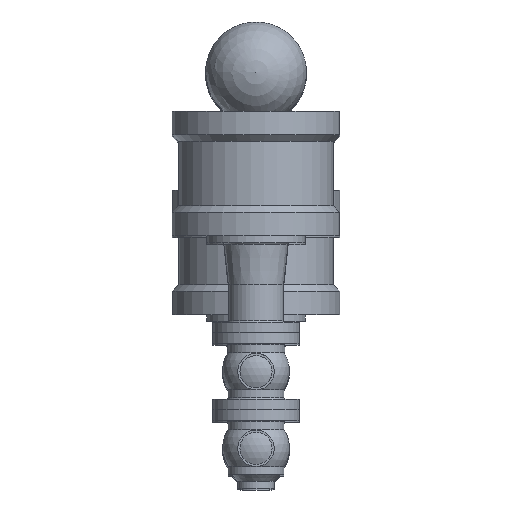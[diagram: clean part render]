
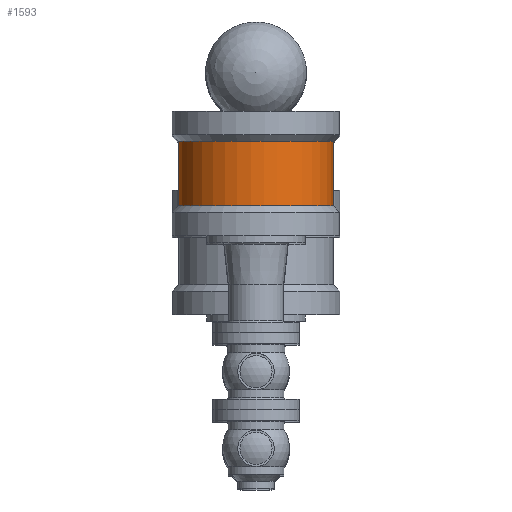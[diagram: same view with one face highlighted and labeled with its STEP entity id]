
A CAD part, front view. The second image highlights one B-rep face of the part: STEP entity #1593.
In plain terms, the highlighted cylindrical face has radius 110.5 mm (diameter 221 mm), a full revolution.
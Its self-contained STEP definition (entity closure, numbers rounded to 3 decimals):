
#219=LINE('',#2860,#262);
#262=VECTOR('',#2236,110.5);
#303=CYLINDRICAL_SURFACE('',#1872,110.5);
#351=FACE_OUTER_BOUND('',#451,.T.);
#451=EDGE_LOOP('',(#1183,#1184,#1185,#1186,#1187,#1188));
#587=CIRCLE('',#1870,110.5);
#588=CIRCLE('',#1871,110.5);
#589=CIRCLE('',#1873,110.5);
#590=CIRCLE('',#1874,110.5);
#753=VERTEX_POINT('',#2850);
#754=VERTEX_POINT('',#2851);
#755=VERTEX_POINT('',#2856);
#756=VERTEX_POINT('',#2857);
#924=EDGE_CURVE('',#753,#754,#587,.T.);
#925=EDGE_CURVE('',#754,#753,#588,.T.);
#927=EDGE_CURVE('',#755,#756,#589,.T.);
#928=EDGE_CURVE('',#756,#755,#590,.T.);
#929=EDGE_CURVE('',#756,#754,#219,.T.);
#1183=ORIENTED_EDGE('',*,*,#927,.F.);
#1184=ORIENTED_EDGE('',*,*,#928,.F.);
#1185=ORIENTED_EDGE('',*,*,#929,.T.);
#1186=ORIENTED_EDGE('',*,*,#925,.T.);
#1187=ORIENTED_EDGE('',*,*,#924,.T.);
#1188=ORIENTED_EDGE('',*,*,#929,.F.);
#1593=ADVANCED_FACE('',(#351),#303,.T.);
#1870=AXIS2_PLACEMENT_3D('',#2852,#2225,#2226);
#1871=AXIS2_PLACEMENT_3D('',#2853,#2227,#2228);
#1872=AXIS2_PLACEMENT_3D('',#2855,#2230,#2231);
#1873=AXIS2_PLACEMENT_3D('',#2858,#2232,#2233);
#1874=AXIS2_PLACEMENT_3D('',#2859,#2234,#2235);
#2225=DIRECTION('center_axis',(-1.,0.,0.));
#2226=DIRECTION('ref_axis',(0.,0.,1.));
#2227=DIRECTION('center_axis',(-1.,0.,0.));
#2228=DIRECTION('ref_axis',(0.,0.,1.));
#2230=DIRECTION('center_axis',(-1.,0.,0.));
#2231=DIRECTION('ref_axis',(0.,0.,1.));
#2232=DIRECTION('center_axis',(-1.,0.,0.));
#2233=DIRECTION('ref_axis',(0.,0.,1.));
#2234=DIRECTION('center_axis',(-1.,0.,0.));
#2235=DIRECTION('ref_axis',(0.,0.,1.));
#2236=DIRECTION('',(1.,0.,0.));
#2850=CARTESIAN_POINT('',(-46.,0.,110.5));
#2851=CARTESIAN_POINT('',(-46.,0.,-110.5));
#2852=CARTESIAN_POINT('Origin',(-46.,0.,0.));
#2853=CARTESIAN_POINT('Origin',(-46.,0.,0.));
#2855=CARTESIAN_POINT('Origin',(-92.,0.,0.));
#2856=CARTESIAN_POINT('',(-138.,0.,110.5));
#2857=CARTESIAN_POINT('',(-138.,0.,-110.5));
#2858=CARTESIAN_POINT('Origin',(-138.,0.,0.));
#2859=CARTESIAN_POINT('Origin',(-138.,0.,0.));
#2860=CARTESIAN_POINT('',(-92.,0.,-110.5));
